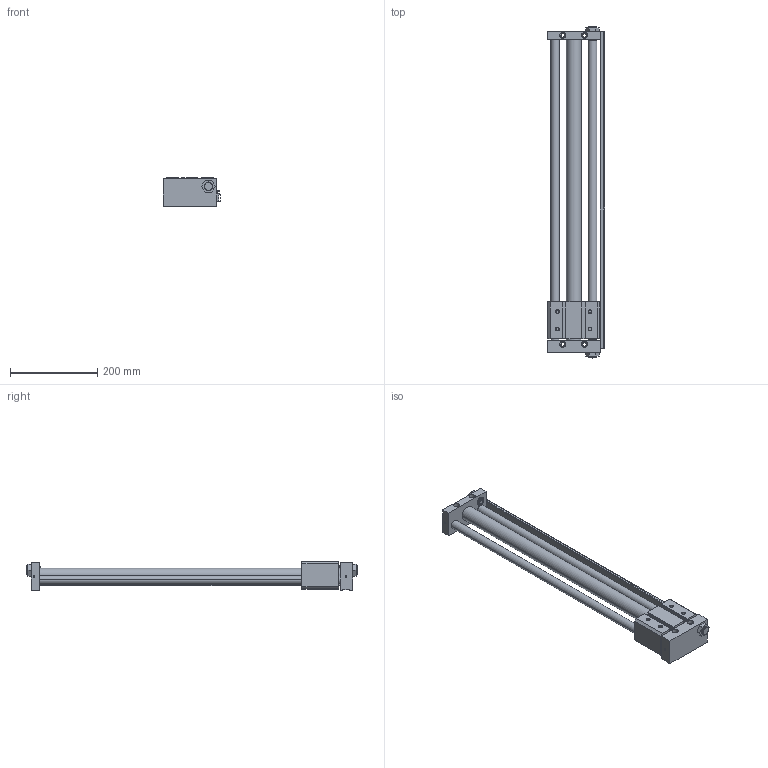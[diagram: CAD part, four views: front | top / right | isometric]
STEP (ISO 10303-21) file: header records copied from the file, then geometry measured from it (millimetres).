
FILE_DESCRIPTION((''),'2;1');
FILE_NAME('C:\Documents and Settings\Administrator\桌面\GYS\GYS32\GYSR32X600.stp','2012-03-06T20:17:18',('Administrator'),(''),'Autodesk Inventor 8','Autodesk Inventor 8','');
FILE_SCHEMA(('AUTOMOTIVE_DESIGN { 1 0 10303 214 1 1 1 1 }'));
Length unit declared in the file: millimetre
Products named in the file (3): GYSR32X600; GYS32X600; GYS32160X600
Assembly tree (2 placements, depth 2):
  GYSR32X600
    GYS32X600
    GYS32160X600
Bounding box: 132.5 x 763 x 66 mm (x, y, z)
Volume: 1990263.6 mm3; surface area: 328497.6 mm2
Topology: 2 solids, 2 shells, 291 faces, 770 edges, 504 vertices
Faces by surface type: plane 161, cylinder 96, cone 28, bspline 6
Entity records: 9200 total; most frequent: CARTESIAN_POINT 1644, DIRECTION 1598, ORIENTED_EDGE 1540, EDGE_CURVE 770, AXIS2_PLACEMENT_3D 538, VECTOR 522, LINE 522, VERTEX_POINT 504
